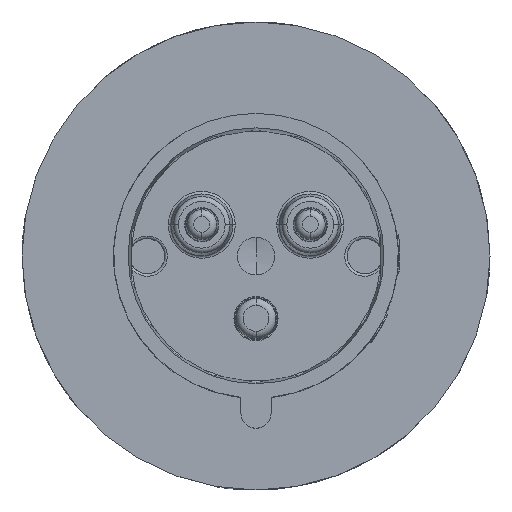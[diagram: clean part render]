
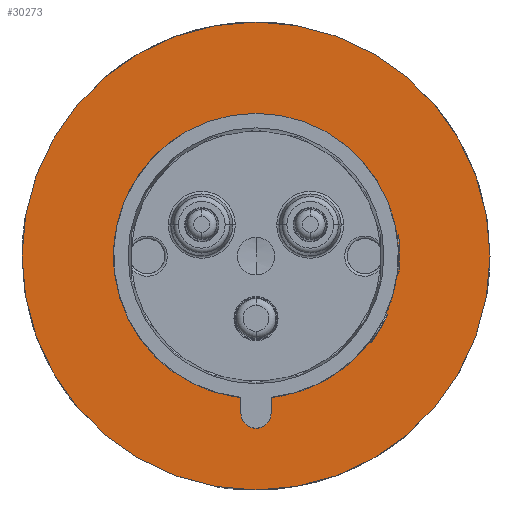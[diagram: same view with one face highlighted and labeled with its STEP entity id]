
A CAD part, top view. The second image highlights one B-rep face of the part: STEP entity #30273.
In plain terms, the highlighted planar face has unit normal (0, 0, 1).
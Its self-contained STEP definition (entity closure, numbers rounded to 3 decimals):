
#624=CARTESIAN_POINT('',(0.,0.,20.2));
#625=DIRECTION('',(0.,0.,-1.));
#626=DIRECTION('',(1.,0.,0.));
#627=AXIS2_PLACEMENT_3D('',#624,#625,#626);
#693=CARTESIAN_POINT('',(0.,0.,20.2));
#694=DIRECTION('',(0.,0.,1.));
#695=DIRECTION('',(1.,0.,0.));
#696=AXIS2_PLACEMENT_3D('',#693,#694,#695);
#1894=CARTESIAN_POINT('',(0.,0.,20.2));
#1895=DIRECTION('',(0.,0.,1.));
#1896=DIRECTION('',(0.,1.,0.));
#1897=AXIS2_PLACEMENT_3D('',#1894,#1895,#1896);
#1910=CARTESIAN_POINT('',(0.,0.,20.2));
#1911=DIRECTION('',(0.,0.,1.));
#1912=DIRECTION('',(-0.989,-0.15,0.));
#1913=AXIS2_PLACEMENT_3D('',#1910,#1911,#1912);
#1918=CARTESIAN_POINT('',(0.,0.,20.2));
#1919=DIRECTION('',(0.,0.,1.));
#1920=DIRECTION('',(0.,-1.,0.));
#1921=AXIS2_PLACEMENT_3D('',#1918,#1919,#1920);
#1948=CARTESIAN_POINT('',(0.,0.,20.2));
#1949=DIRECTION('',(0.,0.,1.));
#1950=DIRECTION('',(0.927,0.376,0.));
#1951=AXIS2_PLACEMENT_3D('',#1948,#1949,#1950);
#3525=DIRECTION('',(-1.,0.,0.));
#3526=VECTOR('',#3525,0.54);
#3527=CARTESIAN_POINT('',(26.361,10.7,20.2));
#3528=LINE('3039',#3527,#3526);
#3539=CARTESIAN_POINT('',(0.,0.,20.2));
#3540=DIRECTION('',(0.,0.,1.));
#3541=DIRECTION('',(0.924,-0.383,0.));
#3542=AXIS2_PLACEMENT_3D('',#3539,#3540,#3541);
#3554=DIRECTION('',(1.,0.,0.));
#3555=VECTOR('',#3554,0.54);
#3556=CARTESIAN_POINT('',(25.821,-10.7,20.2));
#3557=LINE('3041',#3556,#3555);
#8277=DIRECTION('',(1.,0.,0.));
#8278=VECTOR('',#8277,0.506);
#8279=CARTESIAN_POINT('',(-28.127,-4.275,20.2));
#8280=LINE('3042',#8279,#8278);
#8291=CARTESIAN_POINT('',(0.,0.,20.2));
#8292=DIRECTION('',(0.,0.,1.));
#8293=DIRECTION('',(-0.988,0.153,0.));
#8294=AXIS2_PLACEMENT_3D('',#8291,#8292,#8293);
#8306=CARTESIAN_POINT('',(0.,0.,20.2));
#8307=DIRECTION('',(0.,0.,1.));
#8308=DIRECTION('',(-0.996,-0.087,0.));
#8309=AXIS2_PLACEMENT_3D('',#8306,#8307,#8308);
#8314=CARTESIAN_POINT('',(0.,0.,20.2));
#8315=DIRECTION('',(0.,0.,1.));
#8316=DIRECTION('',(-1.,-0.01,0.));
#8317=AXIS2_PLACEMENT_3D('',#8314,#8315,#8316);
#8322=CARTESIAN_POINT('',(0.,0.,20.2));
#8323=DIRECTION('',(0.,0.,1.));
#8324=DIRECTION('',(-0.998,0.056,0.));
#8325=AXIS2_PLACEMENT_3D('',#8322,#8323,#8324);
#8372=DIRECTION('',(-1.,0.,0.));
#8373=VECTOR('',#8372,0.506);
#8374=CARTESIAN_POINT('',(-27.621,4.275,20.2));
#8375=LINE('3047',#8374,#8373);
#8493=DIRECTION('',(-1.,0.,0.));
#8494=VECTOR('',#8493,0.502);
#8495=CARTESIAN_POINT('',(-27.844,-2.435,20.2));
#8496=LINE('3053',#8495,#8494);
#8514=CARTESIAN_POINT('',(0.,0.,20.2));
#8515=DIRECTION('',(0.,0.,1.));
#8516=DIRECTION('',(-0.998,-0.065,0.));
#8517=AXIS2_PLACEMENT_3D('',#8514,#8515,#8516);
#8522=DIRECTION('',(-1.,0.,0.));
#8523=VECTOR('',#8522,0.501);
#8524=CARTESIAN_POINT('',(-27.889,-1.849,20.2));
#8525=LINE('3048',#8524,#8523);
#8573=DIRECTION('',(-1.,0.,0.));
#8574=VECTOR('',#8573,0.5);
#8575=CARTESIAN_POINT('',(-27.949,-0.286,20.2));
#8576=LINE('3049',#8575,#8574);
#8594=CARTESIAN_POINT('',(0.,0.,20.2));
#8595=DIRECTION('',(0.,0.,1.));
#8596=DIRECTION('',(-1.,0.011,0.));
#8597=AXIS2_PLACEMENT_3D('',#8594,#8595,#8596);
#8602=DIRECTION('',(-1.,0.,0.));
#8603=VECTOR('',#8602,0.5);
#8604=CARTESIAN_POINT('',(-27.948,0.299,20.2));
#8605=LINE('3050',#8604,#8603);
#8653=DIRECTION('',(-1.,0.,0.));
#8654=VECTOR('',#8653,0.501);
#8655=CARTESIAN_POINT('',(-27.906,1.569,20.2));
#8656=LINE('3051',#8655,#8654);
#8674=CARTESIAN_POINT('',(0.,0.,20.2));
#8675=DIRECTION('',(0.,0.,1.));
#8676=DIRECTION('',(-0.997,0.076,0.));
#8677=AXIS2_PLACEMENT_3D('',#8674,#8675,#8676);
#8682=DIRECTION('',(-1.,0.,0.));
#8683=VECTOR('',#8682,0.501);
#8684=CARTESIAN_POINT('',(-27.867,2.155,20.2));
#8685=LINE('3052',#8684,#8683);
#27017=CARTESIAN_POINT('',(46.75,0.,20.2));
#27019=VERTEX_POINT('',#27017);
#27021=CARTESIAN_POINT('',(-46.75,0.,20.2));
#27023=VERTEX_POINT('',#27021);
#27223=CARTESIAN_POINT('',(0.,28.45,20.2));
#27224=CARTESIAN_POINT('',(-28.127,4.275,20.2));
#27225=VERTEX_POINT('',#27223);
#27226=VERTEX_POINT('',#27224);
#27227=CARTESIAN_POINT('',(-28.127,-4.275,20.2));
#27228=CARTESIAN_POINT('',(0.,-28.45,20.2));
#27229=VERTEX_POINT('',#27227);
#27230=VERTEX_POINT('',#27228);
#27231=CARTESIAN_POINT('',(26.361,-10.7,20.2));
#27232=VERTEX_POINT('',#27231);
#27233=CARTESIAN_POINT('',(26.361,10.7,20.2));
#27234=VERTEX_POINT('',#27233);
#27251=CARTESIAN_POINT('',(25.821,10.7,20.2));
#27252=VERTEX_POINT('',#27251);
#27253=CARTESIAN_POINT('',(25.821,-10.7,20.2));
#27254=VERTEX_POINT('',#27253);
#27255=CARTESIAN_POINT('',(-27.621,-4.275,20.2));
#27256=VERTEX_POINT('',#27255);
#27257=CARTESIAN_POINT('',(-27.621,4.275,20.2));
#27258=CARTESIAN_POINT('',(-27.867,2.155,20.2));
#27259=VERTEX_POINT('',#27257);
#27260=VERTEX_POINT('',#27258);
#27261=CARTESIAN_POINT('',(-27.906,1.569,20.2));
#27262=CARTESIAN_POINT('',(-27.948,0.299,20.2));
#27263=VERTEX_POINT('',#27261);
#27264=VERTEX_POINT('',#27262);
#27265=CARTESIAN_POINT('',(-27.949,-0.286,20.2));
#27266=CARTESIAN_POINT('',(-27.889,-1.849,20.2));
#27267=VERTEX_POINT('',#27265);
#27268=VERTEX_POINT('',#27266);
#27269=CARTESIAN_POINT('',(-27.844,-2.435,20.2));
#27270=VERTEX_POINT('',#27269);
#27271=CARTESIAN_POINT('',(-28.39,-1.849,20.2));
#27272=VERTEX_POINT('',#27271);
#27273=CARTESIAN_POINT('',(-28.449,-0.286,20.2));
#27274=VERTEX_POINT('',#27273);
#27275=CARTESIAN_POINT('',(-28.448,0.299,20.2));
#27276=VERTEX_POINT('',#27275);
#27277=CARTESIAN_POINT('',(-28.407,1.569,20.2));
#27278=VERTEX_POINT('',#27277);
#27279=CARTESIAN_POINT('',(-28.368,2.155,20.2));
#27280=VERTEX_POINT('',#27279);
#27281=CARTESIAN_POINT('',(-28.346,-2.435,20.2));
#27282=VERTEX_POINT('',#27281);
#30218=CARTESIAN_POINT('',(0.,0.,20.2));
#30219=DIRECTION('',(0.,0.,1.));
#30220=DIRECTION('',(-1.,0.,0.));
#30221=AXIS2_PLACEMENT_3D('',#30218,#30219,#30220);
#30222=PLANE('874',#30221);
#30223=ORIENTED_EDGE('2845',*,*,#29003,.F.);
#30224=ORIENTED_EDGE('2846',*,*,#28913,.T.);
#30225=EDGE_LOOP('874',(#30223,#30224));
#30226=FACE_OUTER_BOUND('874',#30225,.F.);
#30228=ORIENTED_EDGE('3027',*,*,#30227,.T.);
#30230=ORIENTED_EDGE('3047',*,*,#30229,.F.);
#30232=ORIENTED_EDGE('3043',*,*,#30231,.T.);
#30234=ORIENTED_EDGE('3052',*,*,#30233,.T.);
#30236=ORIENTED_EDGE('3054',*,*,#30235,.T.);
#30238=ORIENTED_EDGE('3051',*,*,#30237,.F.);
#30240=ORIENTED_EDGE('3044',*,*,#30239,.T.);
#30242=ORIENTED_EDGE('3050',*,*,#30241,.T.);
#30244=ORIENTED_EDGE('3055',*,*,#30243,.T.);
#30246=ORIENTED_EDGE('3049',*,*,#30245,.F.);
#30248=ORIENTED_EDGE('3045',*,*,#30247,.T.);
#30250=ORIENTED_EDGE('3048',*,*,#30249,.T.);
#30252=ORIENTED_EDGE('3056',*,*,#30251,.T.);
#30254=ORIENTED_EDGE('3053',*,*,#30253,.F.);
#30256=ORIENTED_EDGE('3046',*,*,#30255,.T.);
#30258=ORIENTED_EDGE('3042',*,*,#30257,.F.);
#30260=ORIENTED_EDGE('3028',*,*,#30259,.T.);
#30262=ORIENTED_EDGE('3029',*,*,#30261,.T.);
#30264=ORIENTED_EDGE('3041',*,*,#30263,.F.);
#30266=ORIENTED_EDGE('3040',*,*,#30265,.T.);
#30268=ORIENTED_EDGE('3039',*,*,#30267,.F.);
#30270=ORIENTED_EDGE('3030',*,*,#30269,.T.);
#30271=EDGE_LOOP('874',(#30228,#30230,#30232,#30234,#30236,#30238,#30240,#30242,
#30244,#30246,#30248,#30250,#30252,#30254,#30256,#30258,#30260,#30262,#30264,
#30266,#30268,#30270));
#30272=FACE_BOUND('874',#30271,.F.);
#628=CIRCLE('2846',#627,46.75);
#697=CIRCLE('2845',#696,46.75);
#1898=CIRCLE('3027',#1897,28.45);
#1914=CIRCLE('3028',#1913,28.45);
#1922=CIRCLE('3029',#1921,28.45);
#1952=CIRCLE('3030',#1951,28.45);
#3543=CIRCLE('3040',#3542,27.95);
#8295=CIRCLE('3043',#8294,27.95);
#8310=CIRCLE('3046',#8309,27.95);
#8318=CIRCLE('3045',#8317,27.95);
#8326=CIRCLE('3044',#8325,27.95);
#8518=CIRCLE('3056',#8517,28.45);
#8598=CIRCLE('3055',#8597,28.45);
#8678=CIRCLE('3054',#8677,28.45);
#28913=EDGE_CURVE('2846',#27019,#27023,#628,.T.);
#29003=EDGE_CURVE('2845',#27019,#27023,#697,.T.);
#30227=EDGE_CURVE('3027',#27225,#27226,#1898,.T.);
#30229=EDGE_CURVE('3047',#27259,#27226,#8375,.T.);
#30231=EDGE_CURVE('3043',#27259,#27260,#8295,.T.);
#30233=EDGE_CURVE('3052',#27260,#27280,#8685,.T.);
#30235=EDGE_CURVE('3054',#27280,#27278,#8678,.T.);
#30237=EDGE_CURVE('3051',#27263,#27278,#8656,.T.);
#30239=EDGE_CURVE('3044',#27263,#27264,#8326,.T.);
#30241=EDGE_CURVE('3050',#27264,#27276,#8605,.T.);
#30243=EDGE_CURVE('3055',#27276,#27274,#8598,.T.);
#30245=EDGE_CURVE('3049',#27267,#27274,#8576,.T.);
#30247=EDGE_CURVE('3045',#27267,#27268,#8318,.T.);
#30249=EDGE_CURVE('3048',#27268,#27272,#8525,.T.);
#30251=EDGE_CURVE('3056',#27272,#27282,#8518,.T.);
#30253=EDGE_CURVE('3053',#27270,#27282,#8496,.T.);
#30255=EDGE_CURVE('3046',#27270,#27256,#8310,.T.);
#30257=EDGE_CURVE('3042',#27229,#27256,#8280,.T.);
#30259=EDGE_CURVE('3028',#27229,#27230,#1914,.T.);
#30261=EDGE_CURVE('3029',#27230,#27232,#1922,.T.);
#30263=EDGE_CURVE('3041',#27254,#27232,#3557,.T.);
#30265=EDGE_CURVE('3040',#27254,#27252,#3543,.T.);
#30267=EDGE_CURVE('3039',#27234,#27252,#3528,.T.);
#30269=EDGE_CURVE('3030',#27234,#27225,#1952,.T.);
#30273=ADVANCED_FACE('874',(#30226,#30272),#30222,.T.);
